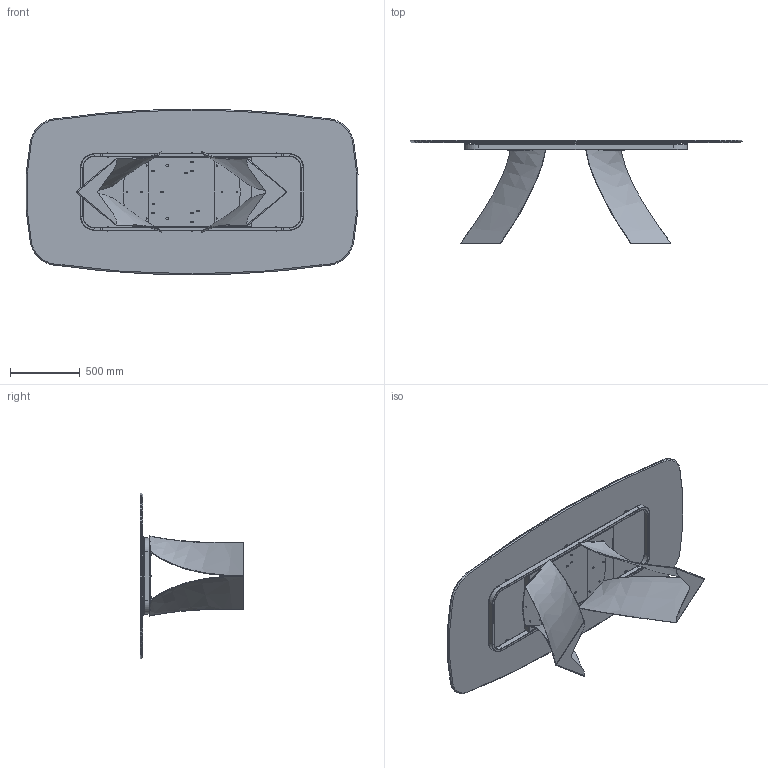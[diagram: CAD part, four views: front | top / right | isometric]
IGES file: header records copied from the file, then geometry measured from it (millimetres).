
Start section: SolidWorks IGES file using analytic representation for surfaces
Global section: file name: Y:\eforma\TECNICO\SOLIDWORKS\E-FORMA\1-TAVOLI\TWIST\02 parts\TW42C.IGS; native system: SolidWorks 2022; preprocessor: SolidWorks 2022; author: eforma.tech; date: 240807.144351; units: millimetre
Bounding box: 2382.15 x 741.37 x 1190 mm (x, y, z)
Volume: 52170999 mm3; surface area: 14974813.1 mm2
Topology: 57 solids, 57 shells, 1129 faces, 2631 edges, 1604 vertices
Faces by surface type: revolution 637, plane 426, bspline 66
